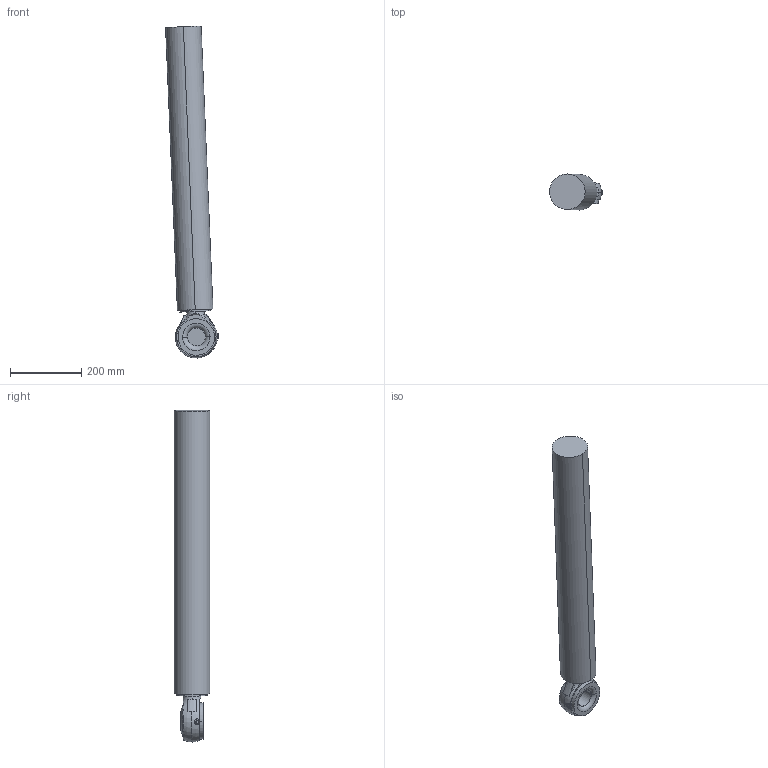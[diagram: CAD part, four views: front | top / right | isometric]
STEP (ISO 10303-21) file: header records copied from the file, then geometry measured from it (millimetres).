
FILE_DESCRIPTION (( 'STEP AP214' ), '1' );
FILE_NAME ('IRB7710_360kg-330_OC_00_ROD_CAD.STEP', '2023-09-26T08:38:33', ( '' ), ( '' ), 'SwSTEP 2.0', 'SolidWorks 2022', '' );
FILE_SCHEMA (( 'AUTOMOTIVE_DESIGN' ));
Length unit declared in the file: millimetre
Products named in the file (1): IRB7710_360kg-330_OC_00_ROD_CAD
Bounding box: 148.57 x 100 x 933.28 mm (x, y, z)
Volume: 6823154.5 mm3; surface area: 314134.9 mm2
Topology: 1 solids, 1 shells, 87 faces, 219 edges, 145 vertices
Faces by surface type: plane 30, cone 28, cylinder 21, torus 4, sphere 4
Entity records: 3024 total; most frequent: CARTESIAN_POINT 841, DIRECTION 456, ORIENTED_EDGE 438, EDGE_CURVE 219, AXIS2_PLACEMENT_3D 198, VERTEX_POINT 145, CIRCLE 110, EDGE_LOOP 98
